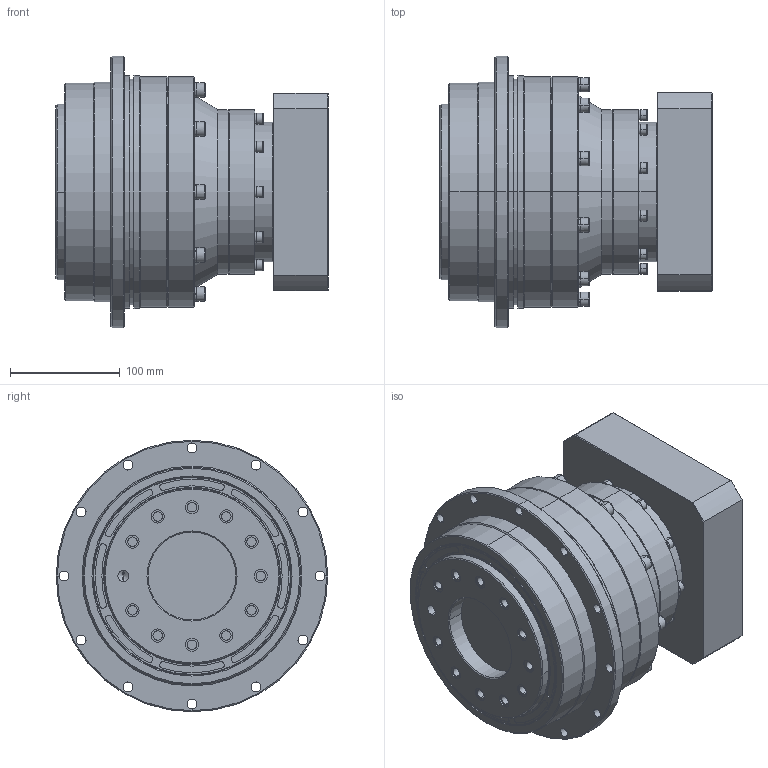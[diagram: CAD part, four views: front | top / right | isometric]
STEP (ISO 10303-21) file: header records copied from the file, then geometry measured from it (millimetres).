
FILE_DESCRIPTION (( 'STEP AP214' ), '1' );
FILE_NAME ('VRT-200-L2-P1 35-114.3-200-M12.STEP', '2023-09-25T06:10:04', ( '微软用户' ), ( '微软中国' ), 'SwSTEP 2.0', 'SolidWorks 2018', '' );
FILE_SCHEMA (( 'AUTOMOTIVE_DESIGN' ));
Length unit declared in the file: millimetre
Products named in the file (3): VRT-200-L2-35拸楊擘; VRT-200-L2-P1 35-114.3-200-M12; 萇儂楊擘PAB142-114.3-M12-200F180H47
Assembly tree (2 placements, depth 2):
  VRT-200-L2-P1 35-114.3-200-M12
    VRT-200-L2-35拸楊擘
    萇儂楊擘PAB142-114.3-M12-200F180H47
Bounding box: 247.5 x 247 x 247 mm (x, y, z)
Volume: 6554351.2 mm3; surface area: 389155.6 mm2
Topology: 3 solids, 10 shells, 1492 faces, 3827 edges, 2408 vertices
Faces by surface type: plane 650, cylinder 621, cone 157, bspline 64
Entity records: 46656 total; most frequent: CARTESIAN_POINT 9873, DIRECTION 8135, ORIENTED_EDGE 7498, EDGE_CURVE 3749, AXIS2_PLACEMENT_3D 3208, VERTEX_POINT 2408, CIRCLE 1775, EDGE_LOOP 1721
